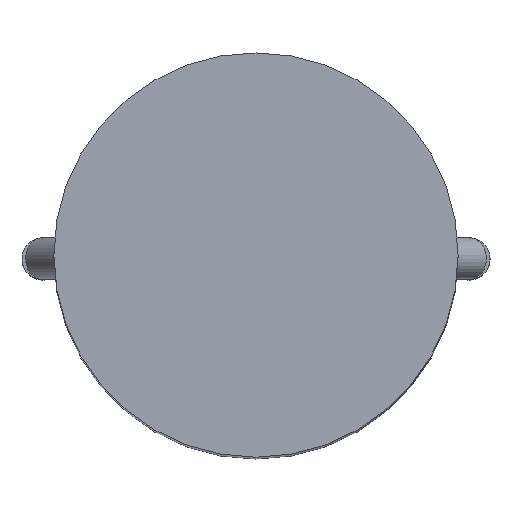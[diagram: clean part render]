
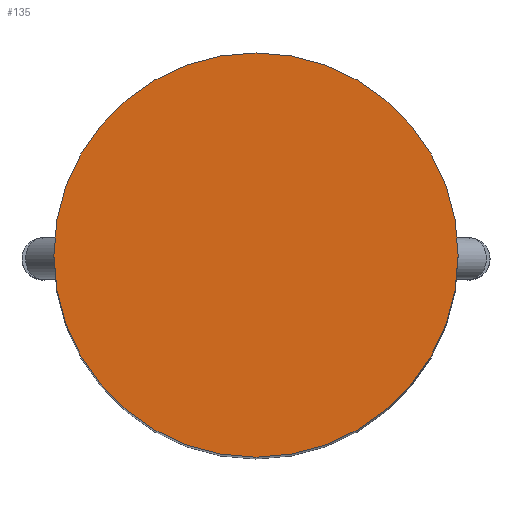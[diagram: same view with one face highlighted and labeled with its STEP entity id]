
A CAD part, top view. The second image highlights one B-rep face of the part: STEP entity #135.
In plain terms, the highlighted planar face has unit normal (0, 0, 1).
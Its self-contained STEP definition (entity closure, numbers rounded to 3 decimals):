
#50 = VERTEX_POINT('',#51);
#51 = CARTESIAN_POINT('',(2.475,0.,12.5));
#58 = CYLINDRICAL_SURFACE('',#59,1.205);
#59 = AXIS2_PLACEMENT_3D('',#60,#61,#62);
#60 = CARTESIAN_POINT('',(1.27,0.,6.));
#61 = DIRECTION('',(-0.,-0.,-1.));
#62 = DIRECTION('',(1.,0.,0.));
#77 = EDGE_CURVE('',#50,#50,#78,.T.);
#78 = SURFACE_CURVE('',#79,(#84,#91),.PCURVE_S1.);
#79 = CIRCLE('',#80,1.205);
#80 = AXIS2_PLACEMENT_3D('',#81,#82,#83);
#81 = CARTESIAN_POINT('',(1.27,0.,12.5));
#82 = DIRECTION('',(0.,0.,1.));
#83 = DIRECTION('',(1.,0.,0.));
#84 = PCURVE('',#58,#85);
#85 = DEFINITIONAL_REPRESENTATION('',(#86),#90);
#86 = LINE('',#87,#88);
#87 = CARTESIAN_POINT('',(-0.,-6.5));
#88 = VECTOR('',#89,1.);
#89 = DIRECTION('',(-1.,0.));
#90 = ( GEOMETRIC_REPRESENTATION_CONTEXT(2) 
PARAMETRIC_REPRESENTATION_CONTEXT() REPRESENTATION_CONTEXT('2D SPACE',''
  ) );
#91 = PCURVE('',#92,#97);
#92 = PLANE('',#93);
#93 = AXIS2_PLACEMENT_3D('',#94,#95,#96);
#94 = CARTESIAN_POINT('',(1.27,0.,12.5));
#95 = DIRECTION('',(0.,0.,1.));
#96 = DIRECTION('',(1.,0.,-0.));
#97 = DEFINITIONAL_REPRESENTATION('',(#98),#102);
#98 = CIRCLE('',#99,1.205);
#99 = AXIS2_PLACEMENT_2D('',#100,#101);
#100 = CARTESIAN_POINT('',(0.,0.));
#101 = DIRECTION('',(1.,0.));
#102 = ( GEOMETRIC_REPRESENTATION_CONTEXT(2) 
PARAMETRIC_REPRESENTATION_CONTEXT() REPRESENTATION_CONTEXT('2D SPACE',''
  ) );
#135 = ADVANCED_FACE('',(#136),#92,.T.);
#136 = FACE_BOUND('',#137,.T.);
#137 = EDGE_LOOP('',(#138));
#138 = ORIENTED_EDGE('',*,*,#77,.T.);
